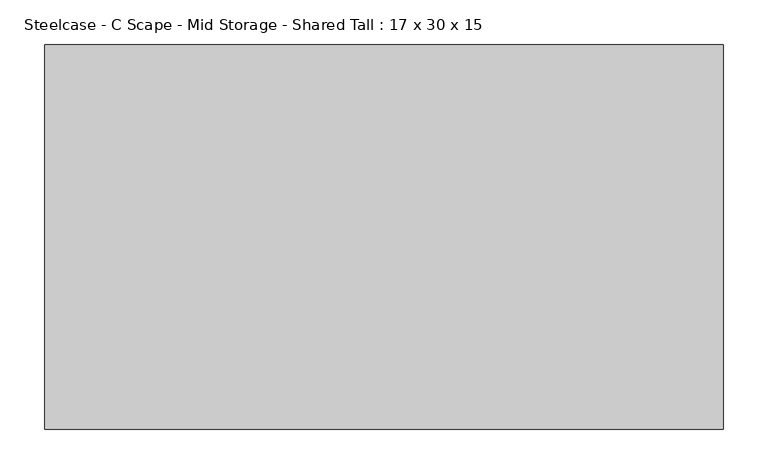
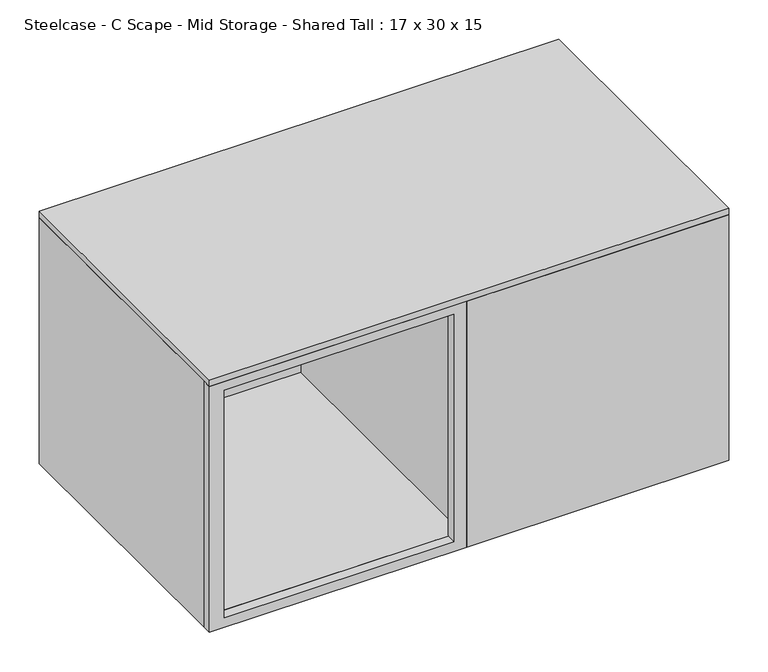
"""IFC4 building model written with IfcOpenShell, lengths in millimetres: furniture geometry, Steelcase - C Scape - Mid Storage - Shared Tall : 17 x 30 x 15."""

from ifc_helpers import new_model, si_unit, frame, origin, place, context, project, spatial, polyline, outline, extrude, faceted_brep, source, transform, mapped, element, save


def steelcase_c_scape_mid_storage_shared_tall_17_x_30_x_15_32a2b2a3(model_context):
    return source(origin(), model_context, "Body", "SolidModel", [
        faceted_brep([(384.175, 215.9, 1219.279375), (0.0, 215.9, 1219.279375), (0.0, -201.2949309, 1219.279375), (21.9711633, -201.2949309, 1219.279375), (21.9711633, 206.3755809, 1219.279375), (377.825, 206.3755809, 1219.279375), (377.825, -215.9, 1219.279375), (762.0, -215.9, 1219.279375), (762.0, 206.3755809, 1219.279375), (739.902, 206.3755809, 1219.279375), (739.902, -201.2949309, 1219.279375), (384.175, -201.2949309, 1219.279375), (762.0, 206.3755809, 838.2), (762.0, -215.9, 838.2), (377.825, -215.9, 838.2), (377.825, -201.2949309, 838.2), (0.0, -201.2949309, 838.2), (0.0, 215.9, 838.2), (384.175, 215.9, 838.2), (384.175, 206.3755809, 838.2), (377.825, -201.2949309, 853.4399855), (21.9711633, -201.2949309, 853.4399855), (21.9711633, 206.3755809, 853.4399855), (377.825, 206.3755809, 853.4399855), (384.175, 206.3755809, 853.4399855), (739.902, 206.3755809, 853.4399855), (739.902, -201.2949309, 853.4399855), (384.175, -201.2949309, 853.4399855)], [[[0, 1, 2, 3, 4, 5, 6, 7, 8, 9, 10, 11]], [[12, 13, 14, 15, 16, 17, 18, 19]], [[1, 0, 18, 17]], [[2, 1, 17, 16]], [[3, 2, 16, 15, 20, 21]], [[4, 3, 21, 22]], [[5, 4, 22, 23]], [[6, 5, 23, 20, 15, 14]], [[7, 6, 14, 13]], [[8, 7, 13, 12]], [[9, 8, 12, 19, 24, 25]], [[10, 9, 25, 26]], [[11, 10, 26, 27]], [[0, 11, 27, 24, 19, 18]], [[21, 20, 23, 22]], [[25, 24, 27, 26]]]),
        extrude(outline(polyline([(1219.279375, 762.0), (1219.279375, 384.175), (838.2, 384.175), (838.2, 762.0), (1219.279375, 762.0)]), holes=[polyline([(1205.8427824, 739.902), (853.4399855, 739.902), (853.4399855, 403.098), (1205.8427824, 403.098), (1205.8427824, 739.902)])]), frame((0.0, 206.3755809, 0.0), z_axis=(0.0, 1.0, 0.0), x_axis=(0.0, 0.0, 1.0)), (0.0, 0.0, 1.0), 9.5244191),
        extrude(outline(polyline([(1219.279375, 377.825), (1219.279375, 0.0), (838.2, 0.0), (838.2, 377.825), (1219.279375, 377.825)]), holes=[polyline([(1205.8427824, 358.902), (853.4399855, 358.902), (853.4399855, 21.9711633), (1205.8427824, 21.9711633), (1205.8427824, 358.902)])]), frame((0.0, -215.9, 0.0), z_axis=(0.0, 1.0, 0.0), x_axis=(0.0, 0.0, 1.0)), (0.0, 0.0, 1.0), 14.6050691),
        extrude(outline(polyline([(762.0, -215.9), (0.0, -215.9), (0.0, 215.9), (762.0, 215.9), (762.0, -215.9)])), frame((0.0, 0.0, 1219.279375), z_axis=(0.0, 0.0, 1.0), x_axis=(1.0, 0.0, 0.0)), (0.0, 0.0, 1.0), 10.080625),
    ])


if __name__ == "__main__":
    model = new_model("IFC4")
    model_context = context("Model", 3, world=origin())
    ifc_project = project(units=[si_unit("LENGTHUNIT", "METRE", prefix="MILLI")], contexts=[model_context])
    site = spatial("IfcSite", under=ifc_project)
    building = spatial("IfcBuilding", under=site)
    placement = place(None, origin())
    steelcase_c_scape_mid_storage_shared_tall_17_x_30_x_15_shape = steelcase_c_scape_mid_storage_shared_tall_17_x_30_x_15_32a2b2a3(model_context)
    element("IfcFurniture", 1, ObjectType="Steelcase - C Scape - Mid Storage - Shared Tall : 17 x 30 x 15", at=placement, inside=building, context=model_context, shape_type="MappedRepresentation", body=[
        mapped(steelcase_c_scape_mid_storage_shared_tall_17_x_30_x_15_shape, transform((0.0, 0.0, 0.0), x_axis=(1.0, 0.0, 0.0), y_axis=(0.0, 1.0, 0.0), z_axis=(0.0, 0.0, 1.0))),
    ])
    save(model, "model.ifc")
